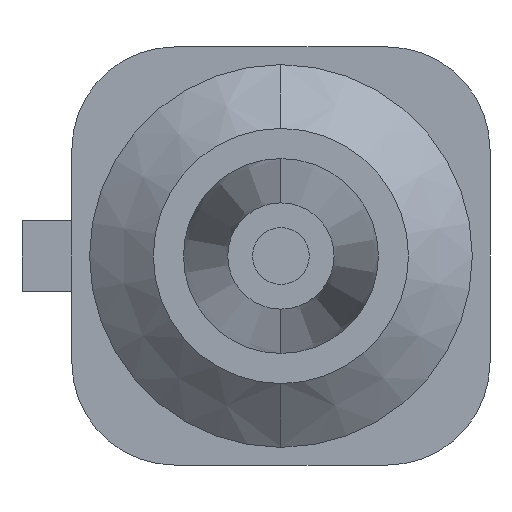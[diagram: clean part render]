
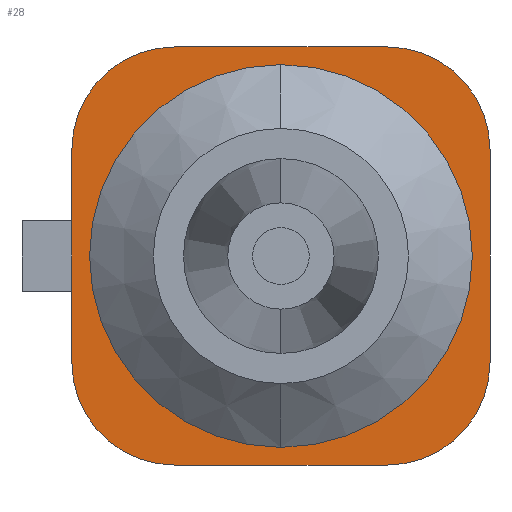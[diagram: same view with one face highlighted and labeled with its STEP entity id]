
A CAD part, front view. The second image highlights one B-rep face of the part: STEP entity #28.
In plain terms, the highlighted planar face has unit normal (0, -1, 0).
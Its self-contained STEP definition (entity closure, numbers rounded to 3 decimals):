
#11 = DIRECTION ( 'NONE',  ( 0., 0., -1. ) ) ;
#25 = AXIS2_PLACEMENT_3D ( 'NONE', #418, #1174, #987 ) ;
#28 = ADVANCED_FACE ( 'NONE', ( #787, #308 ), #678, .T. ) ;
#39 = VECTOR ( 'NONE', #1158, 1000. ) ;
#65 = CIRCLE ( 'NONE', #765, 1.45 ) ;
#74 = CARTESIAN_POINT ( 'NONE',  ( 1.45, 0., -5.9 ) ) ;
#75 = DIRECTION ( 'NONE',  ( 0., -1., 0. ) ) ;
#100 = LINE ( 'NONE', #299, #993 ) ;
#109 = CARTESIAN_POINT ( 'NONE',  ( 2.95, 0., -5.65 ) ) ;
#130 = CARTESIAN_POINT ( 'NONE',  ( 1.45, 0., -4.45 ) ) ;
#135 = VERTEX_POINT ( 'NONE', #1182 ) ;
#175 = DIRECTION ( 'NONE',  ( 0., 0., -1. ) ) ;
#176 = EDGE_CURVE ( 'NONE', #661, #1130, #407, .T. ) ;
#217 = AXIS2_PLACEMENT_3D ( 'NONE', #266, #75, #175 ) ;
#231 = LINE ( 'NONE', #695, #467 ) ;
#232 = DIRECTION ( 'NONE',  ( 0., 0., -1. ) ) ;
#240 = CIRCLE ( 'NONE', #1070, 1.45 ) ;
#266 = CARTESIAN_POINT ( 'NONE',  ( 1.45, 0., -1.45 ) ) ;
#272 = EDGE_CURVE ( 'NONE', #479, #656, #760, .T. ) ;
#281 = AXIS2_PLACEMENT_3D ( 'NONE', #691, #394, #11 ) ;
#299 = CARTESIAN_POINT ( 'NONE',  ( 0., 0., 0. ) ) ;
#308 = FACE_OUTER_BOUND ( 'NONE', #876, .T. ) ;
#342 = ORIENTED_EDGE ( 'NONE', *, *, #347, .F. ) ;
#344 = ORIENTED_EDGE ( 'NONE', *, *, #892, .F. ) ;
#347 = EDGE_CURVE ( 'NONE', #479, #531, #100, .T. ) ;
#377 = ORIENTED_EDGE ( 'NONE', *, *, #868, .T. ) ;
#394 = DIRECTION ( 'NONE',  ( 0., -1., 0. ) ) ;
#400 = CIRCLE ( 'NONE', #524, 2.7 ) ;
#407 = CIRCLE ( 'NONE', #25, 2.7 ) ;
#418 = CARTESIAN_POINT ( 'NONE',  ( 2.95, 0., -2.95 ) ) ;
#431 = DIRECTION ( 'NONE',  ( 0., 0., -1. ) ) ;
#451 = EDGE_CURVE ( 'NONE', #135, #1026, #624, .T. ) ;
#455 = CARTESIAN_POINT ( 'NONE',  ( 0., 0., -4.45 ) ) ;
#459 = EDGE_CURVE ( 'NONE', #813, #531, #240, .T. ) ;
#467 = VECTOR ( 'NONE', #793, 1000. ) ;
#479 = VERTEX_POINT ( 'NONE', #609 ) ;
#500 = LINE ( 'NONE', #785, #39 ) ;
#524 = AXIS2_PLACEMENT_3D ( 'NONE', #1106, #928, #431 ) ;
#531 = VERTEX_POINT ( 'NONE', #805 ) ;
#574 = CARTESIAN_POINT ( 'NONE',  ( 5.9, 0., -1.45 ) ) ;
#576 = EDGE_LOOP ( 'NONE', ( #712, #1165 ) ) ;
#609 = CARTESIAN_POINT ( 'NONE',  ( 1.45, 0., 0. ) ) ;
#624 = CIRCLE ( 'NONE', #698, 1.45 ) ;
#634 = CARTESIAN_POINT ( 'NONE',  ( 0., 0., -5.9 ) ) ;
#638 = VERTEX_POINT ( 'NONE', #74 ) ;
#645 = VERTEX_POINT ( 'NONE', #455 ) ;
#656 = VERTEX_POINT ( 'NONE', #904 ) ;
#661 = VERTEX_POINT ( 'NONE', #747 ) ;
#668 = EDGE_CURVE ( 'NONE', #135, #638, #1018, .T. ) ;
#671 = ORIENTED_EDGE ( 'NONE', *, *, #451, .T. ) ;
#678 = PLANE ( 'NONE',  #281 ) ;
#691 = CARTESIAN_POINT ( 'NONE',  ( 0., 0., 0. ) ) ;
#695 = CARTESIAN_POINT ( 'NONE',  ( 5.9, 0., 0. ) ) ;
#698 = AXIS2_PLACEMENT_3D ( 'NONE', #707, #790, #991 ) ;
#707 = CARTESIAN_POINT ( 'NONE',  ( 4.45, 0., -4.45 ) ) ;
#712 = ORIENTED_EDGE ( 'NONE', *, *, #176, .F. ) ;
#747 = CARTESIAN_POINT ( 'NONE',  ( 2.95, 0., -0.25 ) ) ;
#760 = CIRCLE ( 'NONE', #217, 1.45 ) ;
#765 = AXIS2_PLACEMENT_3D ( 'NONE', #130, #980, #1063 ) ;
#785 = CARTESIAN_POINT ( 'NONE',  ( 0., 0., 0. ) ) ;
#787 = FACE_BOUND ( 'NONE', #576, .T. ) ;
#790 = DIRECTION ( 'NONE',  ( 0., -1., 0. ) ) ;
#793 = DIRECTION ( 'NONE',  ( 0., 0., -1. ) ) ;
#805 = CARTESIAN_POINT ( 'NONE',  ( 4.45, 0., 0. ) ) ;
#813 = VERTEX_POINT ( 'NONE', #574 ) ;
#823 = CARTESIAN_POINT ( 'NONE',  ( 5.9, 0., -4.45 ) ) ;
#860 = DIRECTION ( 'NONE',  ( 1., 0., 0. ) ) ;
#868 = EDGE_CURVE ( 'NONE', #645, #638, #65, .T. ) ;
#876 = EDGE_LOOP ( 'NONE', ( #344, #1084, #342, #943, #1068, #377, #929, #671 ) ) ;
#892 = EDGE_CURVE ( 'NONE', #813, #1026, #231, .T. ) ;
#904 = CARTESIAN_POINT ( 'NONE',  ( 0., 0., -1.45 ) ) ;
#928 = DIRECTION ( 'NONE',  ( 0., -1., 0. ) ) ;
#929 = ORIENTED_EDGE ( 'NONE', *, *, #668, .F. ) ;
#943 = ORIENTED_EDGE ( 'NONE', *, *, #272, .T. ) ;
#971 = EDGE_CURVE ( 'NONE', #645, #656, #500, .T. ) ;
#980 = DIRECTION ( 'NONE',  ( 0., -1., 0. ) ) ;
#986 = DIRECTION ( 'NONE',  ( 0., -1., 0. ) ) ;
#987 = DIRECTION ( 'NONE',  ( 0., 0., -1. ) ) ;
#991 = DIRECTION ( 'NONE',  ( 0., 0., -1. ) ) ;
#993 = VECTOR ( 'NONE', #860, 1000. ) ;
#1018 = LINE ( 'NONE', #634, #1072 ) ;
#1025 = EDGE_CURVE ( 'NONE', #1130, #661, #400, .T. ) ;
#1026 = VERTEX_POINT ( 'NONE', #823 ) ;
#1063 = DIRECTION ( 'NONE',  ( 0., 0., -1. ) ) ;
#1068 = ORIENTED_EDGE ( 'NONE', *, *, #971, .F. ) ;
#1070 = AXIS2_PLACEMENT_3D ( 'NONE', #1177, #986, #232 ) ;
#1072 = VECTOR ( 'NONE', #1118, 1000. ) ;
#1084 = ORIENTED_EDGE ( 'NONE', *, *, #459, .T. ) ;
#1106 = CARTESIAN_POINT ( 'NONE',  ( 2.95, 0., -2.95 ) ) ;
#1118 = DIRECTION ( 'NONE',  ( -1., 0., 0. ) ) ;
#1130 = VERTEX_POINT ( 'NONE', #109 ) ;
#1158 = DIRECTION ( 'NONE',  ( 0., 0., 1. ) ) ;
#1165 = ORIENTED_EDGE ( 'NONE', *, *, #1025, .F. ) ;
#1174 = DIRECTION ( 'NONE',  ( 0., -1., 0. ) ) ;
#1177 = CARTESIAN_POINT ( 'NONE',  ( 4.45, 0., -1.45 ) ) ;
#1182 = CARTESIAN_POINT ( 'NONE',  ( 4.45, 0., -5.9 ) ) ;
